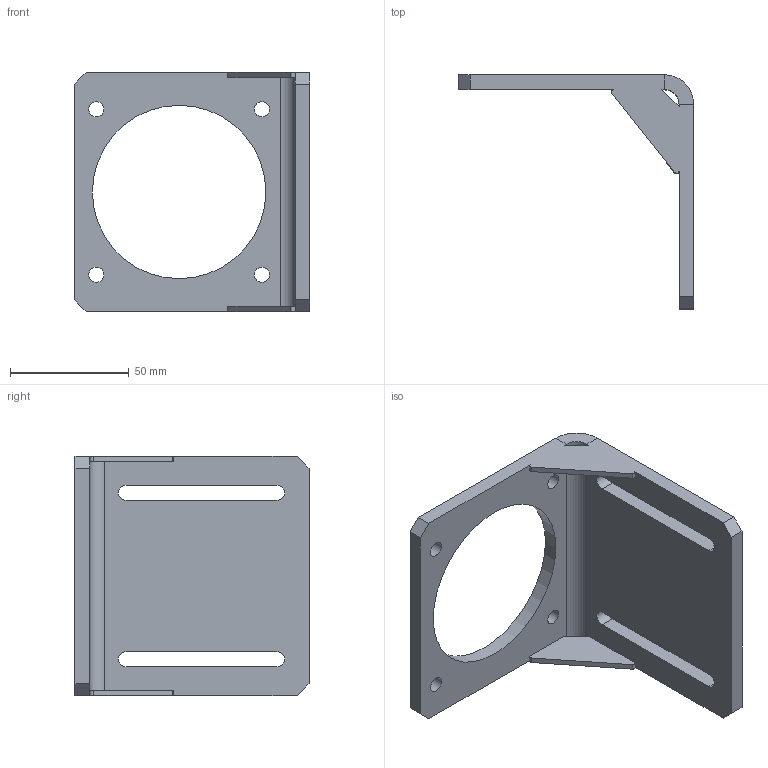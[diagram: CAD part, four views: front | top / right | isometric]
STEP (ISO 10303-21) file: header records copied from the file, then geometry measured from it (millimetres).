
FILE_DESCRIPTION(/* description */ (''),/* implementation_level */ '2;1');
FILE_NAME(/* name */ 'C:\Users\Lukas\Documents\Inventor\Rocketronics Teile\NEMA 34 Winkel.stp',/* time_stamp */ '2026-03-17T17:07:46+01:00',/* author */ ('Lukas'),/* organization */ (''),/* preprocessor_version */ 'ST-DEVELOPER v19',/* originating_system */ 'Autodesk Inventor 2023',/* authorisation */ '');
FILE_SCHEMA (('AUTOMOTIVE_DESIGN { 1 0 10303 214 3 1 1 }'));
Length unit declared in the file: millimetre
Products named in the file (1): NEMA 34 Winkel
Bounding box: 99.2 x 98.6 x 100.8 mm (x, y, z)
Volume: 87113.5 mm3; surface area: 36713.7 mm2
Topology: 1 solids, 1 shells, 39 faces, 115 edges, 74 vertices
Faces by surface type: plane 24, cylinder 15
Full cylindrical faces by diameter (mm): 6.4 x4, 73.05 x1
Entity records: 1374 total; most frequent: ORIENTED_EDGE 230, CARTESIAN_POINT 229, DIRECTION 225, EDGE_CURVE 115, LINE 85, VECTOR 85, VERTEX_POINT 74, AXIS2_PLACEMENT_3D 70
